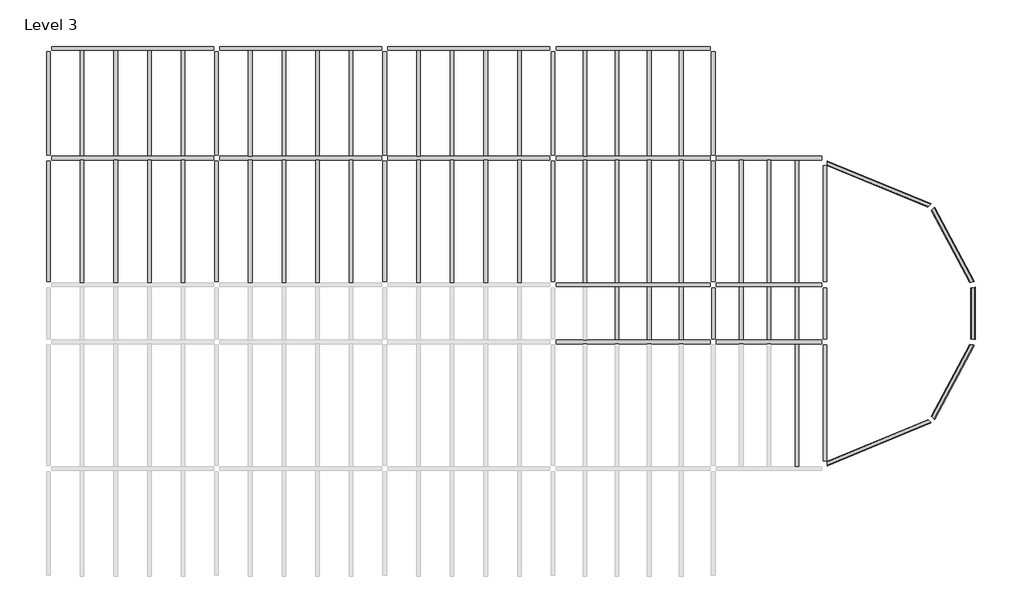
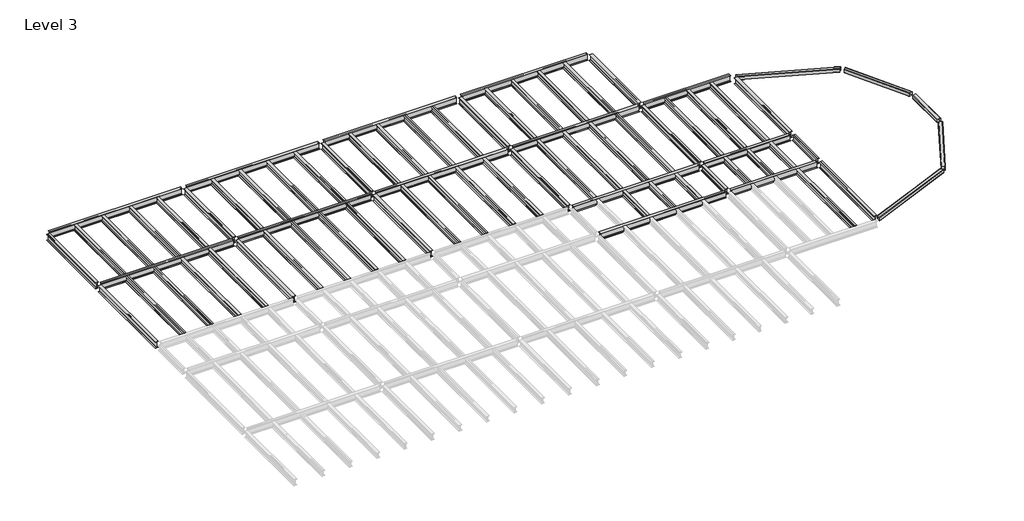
# One storey, part 2 of 2: 74 beams.
"""IFC4 building model written with IfcOpenShell, lengths in millimetres."""

from ifc_helpers import new_model, si_unit, origin, place, context, project, spatial, transform, mapped, element, save
from components import hss_square_hss8x8x3_8_81874951, hss_square_hss8x8x3_8_df46a162, hss_square_hss8x8x3_8_1cc8d9bf, hss_square_hss8x8x3_8_2c6f5ad9, w_shapes_w12x26_ac08b433, w_shapes_w12x26_80971791, w_shapes_w12x26_13ab2ca8, w_shapes_w12x26_1a00c8bd, w_shapes_w14x30_2b5df836, w_shapes_w14x30_7cdcd298, w_shapes_w14x30_aa676985, w_shapes_w14x30_0fa609c7, w_shapes_w14x30_8a2fed69, w_shapes_w14x30_0dffa004, w_shapes_w14x30_1dc52f8a

model = new_model("IFC4")

# Units and contexts
model_context = context("Model", 3, world=origin())
ifc_project = project(units=[si_unit("LENGTHUNIT", "METRE", prefix="MILLI")], contexts=[model_context])

# Site, building, storey
site = spatial("IfcSite", under=ifc_project)
building = spatial("IfcBuilding", under=site)
storey = spatial("IfcBuildingStorey", under=building, Name="Level 3", Elevation=7162.8)

# Beams
placement = place(None, origin())
hss_square_hss8x8x3_8_shape = hss_square_hss8x8x3_8_81874951(model_context)
element("IfcBeam", 1, ObjectType="HSS Square : HSS8X8X3/8", at=placement, inside=storey, context=model_context, shape_type="MappedRepresentation", body=[
    mapped(hss_square_hss8x8x3_8_shape, transform((17937.9339721, 4304.5648319, 7061.2), x_axis=(1.0, 0.0, 0.0), y_axis=(0.0, 1.0, 0.0), z_axis=(0.0, 0.0, 1.0))),
])
element("IfcBeam", 2, ObjectType="HSS Square : HSS8X8X3/8", at=placement, inside=storey, context=model_context, shape_type="MappedRepresentation", body=[
    mapped(hss_square_hss8x8x3_8_shape, transform((22753.596317, -7321.472513, 7061.2), x_axis=(-0.7071067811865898, -0.7071067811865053, 0.0), y_axis=(0.7071067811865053, -0.7071067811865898, 0.0), z_axis=(0.0, 0.0, 1.0))),
])
hss_square_hss8x8x3_8_2_shape = hss_square_hss8x8x3_8_df46a162(model_context)
element("IfcBeam", 3, ObjectType="HSS Square : HSS8X8X3/8", at=placement, inside=storey, context=model_context, shape_type="MappedRepresentation", body=[
    mapped(hss_square_hss8x8x3_8_2_shape, transform((22753.596317, 2309.8521769, 7061.2), x_axis=(0.7071067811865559, -0.7071067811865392, 0.0), y_axis=(0.7071067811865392, 0.7071067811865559, 0.0), z_axis=(0.0, 0.0, 1.0))),
])
hss_square_hss8x8x3_8_3_shape = hss_square_hss8x8x3_8_1cc8d9bf(model_context)
element("IfcBeam", 4, ObjectType="HSS Square : HSS8X8X3/8", at=placement, inside=storey, context=model_context, shape_type="MappedRepresentation", body=[
    mapped(hss_square_hss8x8x3_8_3_shape, transform((24623.6673698, -1208.8226681, 7061.2), x_axis=(0.19044289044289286, -0.9816982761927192, 0.0), y_axis=(0.9816982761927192, 0.19044289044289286, 0.0), z_axis=(0.0, 0.0, 1.0))),
])
hss_square_hss8x8x3_8_4_shape = hss_square_hss8x8x3_8_2c6f5ad9(model_context)
element("IfcBeam", 5, ObjectType="HSS Square : HSS8X8X3/8", at=placement, inside=storey, context=model_context, shape_type="MappedRepresentation", body=[
    mapped(hss_square_hss8x8x3_8_4_shape, transform((24623.6673698, -3802.7976681, 7061.2), x_axis=(-0.19044289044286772, -0.981698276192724, 0.0), y_axis=(0.981698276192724, -0.19044289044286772, 0.0), z_axis=(0.0, 0.0, 1.0))),
])
w_shapes_w12x26_shape = w_shapes_w12x26_ac08b433(model_context)
element("IfcBeam", 6, ObjectType="W Shapes : W12X26", at=placement, inside=storey, context=model_context, shape_type="MappedRepresentation", body=[
    mapped(w_shapes_w12x26_shape, transform((12884.9214721, -2505.8101681, 7007.86), x_axis=(0.0, -1.0, 0.0), y_axis=(1.0, 0.0, 0.0), z_axis=(0.0, 0.0, 1.0))),
])
element("IfcBeam", 7, ObjectType="W Shapes : W12X26", at=placement, inside=storey, context=model_context, shape_type="MappedRepresentation", body=[
    mapped(w_shapes_w12x26_shape, transform((17937.9339721, -2505.8101681, 7007.86), x_axis=(0.0, -1.0, 0.0), y_axis=(1.0, 0.0, 0.0), z_axis=(0.0, 0.0, 1.0))),
])
w_shapes_w12x26_2_shape = w_shapes_w12x26_80971791(model_context)
element("IfcBeam", 8, ObjectType="W Shapes : W12X26", at=placement, inside=storey, context=model_context, shape_type="MappedRepresentation", body=[
    mapped(w_shapes_w12x26_2_shape, transform((-15718.6535279, 7022.3648319, 7007.86), x_axis=(0.0, 1.0, 0.0), y_axis=(-1.0, 0.0, 0.0), z_axis=(0.0, 0.0, 1.0))),
])
element("IfcBeam", 9, ObjectType="W Shapes : W12X26", at=placement, inside=storey, context=model_context, shape_type="MappedRepresentation", body=[
    mapped(w_shapes_w12x26_2_shape, transform((-14194.6535279, 7022.3648319, 7007.86), x_axis=(0.0, 1.0, 0.0), y_axis=(-1.0, 0.0, 0.0), z_axis=(0.0, 0.0, 1.0))),
])
element("IfcBeam", 10, ObjectType="W Shapes : W12X26", at=placement, inside=storey, context=model_context, shape_type="MappedRepresentation", body=[
    mapped(w_shapes_w12x26_2_shape, transform((-12670.6535279, 7022.3648319, 7007.86), x_axis=(0.0, 1.0, 0.0), y_axis=(-1.0, 0.0, 0.0), z_axis=(0.0, 0.0, 1.0))),
])
element("IfcBeam", 11, ObjectType="W Shapes : W12X26", at=placement, inside=storey, context=model_context, shape_type="MappedRepresentation", body=[
    mapped(w_shapes_w12x26_2_shape, transform((-11146.6535279, 7022.3648319, 7007.86), x_axis=(0.0, 1.0, 0.0), y_axis=(-1.0, 0.0, 0.0), z_axis=(0.0, 0.0, 1.0))),
])
element("IfcBeam", 12, ObjectType="W Shapes : W12X26", at=placement, inside=storey, context=model_context, shape_type="MappedRepresentation", body=[
    mapped(w_shapes_w12x26_2_shape, transform((-3526.6535279, 7022.3648319, 7007.86), x_axis=(0.0, -1.0, 0.0), y_axis=(1.0, 0.0, 0.0), z_axis=(0.0, 0.0, 1.0))),
])
element("IfcBeam", 13, ObjectType="W Shapes : W12X26", at=placement, inside=storey, context=model_context, shape_type="MappedRepresentation", body=[
    mapped(w_shapes_w12x26_2_shape, transform((-5050.6535279, 7022.3648319, 7007.86), x_axis=(0.0, -1.0, 0.0), y_axis=(1.0, 0.0, 0.0), z_axis=(0.0, 0.0, 1.0))),
])
element("IfcBeam", 14, ObjectType="W Shapes : W12X26", at=placement, inside=storey, context=model_context, shape_type="MappedRepresentation", body=[
    mapped(w_shapes_w12x26_2_shape, transform((-6574.6535279, 7022.3648319, 7007.86), x_axis=(0.0, -1.0, 0.0), y_axis=(1.0, 0.0, 0.0), z_axis=(0.0, 0.0, 1.0))),
])
element("IfcBeam", 15, ObjectType="W Shapes : W12X26", at=placement, inside=storey, context=model_context, shape_type="MappedRepresentation", body=[
    mapped(w_shapes_w12x26_2_shape, transform((-8098.6535279, 7022.3648319, 7007.86), x_axis=(0.0, -1.0, 0.0), y_axis=(1.0, 0.0, 0.0), z_axis=(0.0, 0.0, 1.0))),
])
element("IfcBeam", 16, ObjectType="W Shapes : W12X26", at=placement, inside=storey, context=model_context, shape_type="MappedRepresentation", body=[
    mapped(w_shapes_w12x26_2_shape, transform((4093.3464721, 7022.3648319, 7007.86), x_axis=(0.0, -1.0, 0.0), y_axis=(1.0, 0.0, 0.0), z_axis=(0.0, 0.0, 1.0))),
])
element("IfcBeam", 17, ObjectType="W Shapes : W12X26", at=placement, inside=storey, context=model_context, shape_type="MappedRepresentation", body=[
    mapped(w_shapes_w12x26_2_shape, transform((2569.3464721, 7022.3648319, 7007.86), x_axis=(0.0, -1.0, 0.0), y_axis=(1.0, 0.0, 0.0), z_axis=(0.0, 0.0, 1.0))),
])
element("IfcBeam", 18, ObjectType="W Shapes : W12X26", at=placement, inside=storey, context=model_context, shape_type="MappedRepresentation", body=[
    mapped(w_shapes_w12x26_2_shape, transform((1045.3464721, 7022.3648319, 7007.86), x_axis=(0.0, -1.0, 0.0), y_axis=(1.0, 0.0, 0.0), z_axis=(0.0, 0.0, 1.0))),
])
element("IfcBeam", 19, ObjectType="W Shapes : W12X26", at=placement, inside=storey, context=model_context, shape_type="MappedRepresentation", body=[
    mapped(w_shapes_w12x26_2_shape, transform((-478.6535279, 7022.3648319, 7007.86), x_axis=(0.0, -1.0, 0.0), y_axis=(1.0, 0.0, 0.0), z_axis=(0.0, 0.0, 1.0))),
])
element("IfcBeam", 20, ObjectType="W Shapes : W12X26", at=placement, inside=storey, context=model_context, shape_type="MappedRepresentation", body=[
    mapped(w_shapes_w12x26_2_shape, transform((11431.4064721, 7022.3648319, 7007.86), x_axis=(0.0, -1.0, 0.0), y_axis=(1.0, 0.0, 0.0), z_axis=(0.0, 0.0, 1.0))),
])
element("IfcBeam", 21, ObjectType="W Shapes : W12X26", at=placement, inside=storey, context=model_context, shape_type="MappedRepresentation", body=[
    mapped(w_shapes_w12x26_2_shape, transform((9977.8914721, 7022.3648319, 7007.86), x_axis=(0.0, -1.0, 0.0), y_axis=(1.0, 0.0, 0.0), z_axis=(0.0, 0.0, 1.0))),
])
element("IfcBeam", 22, ObjectType="W Shapes : W12X26", at=placement, inside=storey, context=model_context, shape_type="MappedRepresentation", body=[
    mapped(w_shapes_w12x26_2_shape, transform((8524.3764721, 7022.3648319, 7007.86), x_axis=(0.0, -1.0, 0.0), y_axis=(1.0, 0.0, 0.0), z_axis=(0.0, 0.0, 1.0))),
])
element("IfcBeam", 23, ObjectType="W Shapes : W12X26", at=placement, inside=storey, context=model_context, shape_type="MappedRepresentation", body=[
    mapped(w_shapes_w12x26_2_shape, transform((7070.8614721, 7022.3648319, 7007.86), x_axis=(0.0, -1.0, 0.0), y_axis=(1.0, 0.0, 0.0), z_axis=(0.0, 0.0, 1.0))),
])
w_shapes_w12x26_3_shape = w_shapes_w12x26_13ab2ca8(model_context)
element("IfcBeam", 24, ObjectType="W Shapes : W12X26", at=placement, inside=storey, context=model_context, shape_type="MappedRepresentation", body=[
    mapped(w_shapes_w12x26_3_shape, transform((11431.4064721, 1662.9648319, 7007.86), x_axis=(0.0, -1.0, 0.0), y_axis=(1.0, 0.0, 0.0), z_axis=(0.0, 0.0, 1.0))),
])
element("IfcBeam", 25, ObjectType="W Shapes : W12X26", at=placement, inside=storey, context=model_context, shape_type="MappedRepresentation", body=[
    mapped(w_shapes_w12x26_3_shape, transform((9977.8914721, 1662.9648319, 7007.86), x_axis=(0.0, -1.0, 0.0), y_axis=(1.0, 0.0, 0.0), z_axis=(0.0, 0.0, 1.0))),
])
element("IfcBeam", 26, ObjectType="W Shapes : W12X26", at=placement, inside=storey, context=model_context, shape_type="MappedRepresentation", body=[
    mapped(w_shapes_w12x26_3_shape, transform((8524.3764721, 1662.9648319, 7007.86), x_axis=(0.0, -1.0, 0.0), y_axis=(1.0, 0.0, 0.0), z_axis=(0.0, 0.0, 1.0))),
])
element("IfcBeam", 27, ObjectType="W Shapes : W12X26", at=placement, inside=storey, context=model_context, shape_type="MappedRepresentation", body=[
    mapped(w_shapes_w12x26_3_shape, transform((7070.8614721, 1662.9648319, 7007.86), x_axis=(0.0, -1.0, 0.0), y_axis=(1.0, 0.0, 0.0), z_axis=(0.0, 0.0, 1.0))),
])
element("IfcBeam", 28, ObjectType="W Shapes : W12X26", at=placement, inside=storey, context=model_context, shape_type="MappedRepresentation", body=[
    mapped(w_shapes_w12x26_3_shape, transform((4093.3464721, 1662.9648319, 7007.86), x_axis=(0.0, -1.0, 0.0), y_axis=(1.0, 0.0, 0.0), z_axis=(0.0, 0.0, 1.0))),
])
element("IfcBeam", 29, ObjectType="W Shapes : W12X26", at=placement, inside=storey, context=model_context, shape_type="MappedRepresentation", body=[
    mapped(w_shapes_w12x26_3_shape, transform((2569.3464721, 1662.9648319, 7007.86), x_axis=(0.0, -1.0, 0.0), y_axis=(1.0, 0.0, 0.0), z_axis=(0.0, 0.0, 1.0))),
])
element("IfcBeam", 30, ObjectType="W Shapes : W12X26", at=placement, inside=storey, context=model_context, shape_type="MappedRepresentation", body=[
    mapped(w_shapes_w12x26_3_shape, transform((1045.3464721, 1662.9648319, 7007.86), x_axis=(0.0, -1.0, 0.0), y_axis=(1.0, 0.0, 0.0), z_axis=(0.0, 0.0, 1.0))),
])
element("IfcBeam", 31, ObjectType="W Shapes : W12X26", at=placement, inside=storey, context=model_context, shape_type="MappedRepresentation", body=[
    mapped(w_shapes_w12x26_3_shape, transform((-478.6535279, 1662.9648319, 7007.86), x_axis=(0.0, -1.0, 0.0), y_axis=(1.0, 0.0, 0.0), z_axis=(0.0, 0.0, 1.0))),
])
element("IfcBeam", 32, ObjectType="W Shapes : W12X26", at=placement, inside=storey, context=model_context, shape_type="MappedRepresentation", body=[
    mapped(w_shapes_w12x26_3_shape, transform((-3526.6535279, 1662.9648319, 7007.86), x_axis=(0.0, -1.0, 0.0), y_axis=(1.0, 0.0, 0.0), z_axis=(0.0, 0.0, 1.0))),
])
element("IfcBeam", 33, ObjectType="W Shapes : W12X26", at=placement, inside=storey, context=model_context, shape_type="MappedRepresentation", body=[
    mapped(w_shapes_w12x26_3_shape, transform((-5050.6535279, 1662.9648319, 7007.86), x_axis=(0.0, -1.0, 0.0), y_axis=(1.0, 0.0, 0.0), z_axis=(0.0, 0.0, 1.0))),
])
element("IfcBeam", 34, ObjectType="W Shapes : W12X26", at=placement, inside=storey, context=model_context, shape_type="MappedRepresentation", body=[
    mapped(w_shapes_w12x26_3_shape, transform((-6574.6535279, 1662.9648319, 7007.86), x_axis=(0.0, -1.0, 0.0), y_axis=(1.0, 0.0, 0.0), z_axis=(0.0, 0.0, 1.0))),
])
element("IfcBeam", 35, ObjectType="W Shapes : W12X26", at=placement, inside=storey, context=model_context, shape_type="MappedRepresentation", body=[
    mapped(w_shapes_w12x26_3_shape, transform((-8098.6535279, 1662.9648319, 7007.86), x_axis=(0.0, -1.0, 0.0), y_axis=(1.0, 0.0, 0.0), z_axis=(0.0, 0.0, 1.0))),
])
element("IfcBeam", 36, ObjectType="W Shapes : W12X26", at=placement, inside=storey, context=model_context, shape_type="MappedRepresentation", body=[
    mapped(w_shapes_w12x26_3_shape, transform((-15718.6535279, 1662.9648319, 7007.86), x_axis=(0.0, 1.0, 0.0), y_axis=(-1.0, 0.0, 0.0), z_axis=(0.0, 0.0, 1.0))),
])
element("IfcBeam", 37, ObjectType="W Shapes : W12X26", at=placement, inside=storey, context=model_context, shape_type="MappedRepresentation", body=[
    mapped(w_shapes_w12x26_3_shape, transform((-14194.6535279, 1662.9648319, 7007.86), x_axis=(0.0, 1.0, 0.0), y_axis=(-1.0, 0.0, 0.0), z_axis=(0.0, 0.0, 1.0))),
])
element("IfcBeam", 38, ObjectType="W Shapes : W12X26", at=placement, inside=storey, context=model_context, shape_type="MappedRepresentation", body=[
    mapped(w_shapes_w12x26_3_shape, transform((-12670.6535279, 1662.9648319, 7007.86), x_axis=(0.0, 1.0, 0.0), y_axis=(-1.0, 0.0, 0.0), z_axis=(0.0, 0.0, 1.0))),
])
element("IfcBeam", 39, ObjectType="W Shapes : W12X26", at=placement, inside=storey, context=model_context, shape_type="MappedRepresentation", body=[
    mapped(w_shapes_w12x26_3_shape, transform((-11146.6535279, 1662.9648319, 7007.86), x_axis=(0.0, 1.0, 0.0), y_axis=(-1.0, 0.0, 0.0), z_axis=(0.0, 0.0, 1.0))),
])
element("IfcBeam", 40, ObjectType="W Shapes : W12X26", at=placement, inside=storey, context=model_context, shape_type="MappedRepresentation", body=[
    mapped(w_shapes_w12x26_3_shape, transform((16674.6808471, 1662.9648319, 7007.86), x_axis=(0.0, -1.0, 0.0), y_axis=(1.0, 0.0, 0.0), z_axis=(0.0, 0.0, 1.0))),
])
element("IfcBeam", 41, ObjectType="W Shapes : W12X26", at=placement, inside=storey, context=model_context, shape_type="MappedRepresentation", body=[
    mapped(w_shapes_w12x26_3_shape, transform((15411.4277221, 1662.9648319, 7007.86), x_axis=(0.0, -1.0, 0.0), y_axis=(1.0, 0.0, 0.0), z_axis=(0.0, 0.0, 1.0))),
])
element("IfcBeam", 42, ObjectType="W Shapes : W12X26", at=placement, inside=storey, context=model_context, shape_type="MappedRepresentation", body=[
    mapped(w_shapes_w12x26_3_shape, transform((14148.1745971, 1662.9648319, 7007.86), x_axis=(0.0, -1.0, 0.0), y_axis=(1.0, 0.0, 0.0), z_axis=(0.0, 0.0, 1.0))),
])
element("IfcBeam", 43, ObjectType="W Shapes : W12X26", at=placement, inside=storey, context=model_context, shape_type="MappedRepresentation", body=[
    mapped(w_shapes_w12x26_3_shape, transform((16674.6808471, -6674.5851681, 7007.86), x_axis=(0.0, 1.0, 0.0), y_axis=(-1.0, 0.0, 0.0), z_axis=(0.0, 0.0, 1.0))),
])
w_shapes_w12x26_4_shape = w_shapes_w12x26_1a00c8bd(model_context)
element("IfcBeam", 44, ObjectType="W Shapes : W12X26", at=placement, inside=storey, context=model_context, shape_type="MappedRepresentation", body=[
    mapped(w_shapes_w12x26_4_shape, transform((11431.4064721, -2505.8101681, 7007.86), x_axis=(0.0, -1.0, 0.0), y_axis=(1.0, 0.0, 0.0), z_axis=(0.0, 0.0, 1.0))),
])
element("IfcBeam", 45, ObjectType="W Shapes : W12X26", at=placement, inside=storey, context=model_context, shape_type="MappedRepresentation", body=[
    mapped(w_shapes_w12x26_4_shape, transform((9977.8914721, -2505.8101681, 7007.86), x_axis=(0.0, -1.0, 0.0), y_axis=(1.0, 0.0, 0.0), z_axis=(0.0, 0.0, 1.0))),
])
element("IfcBeam", 46, ObjectType="W Shapes : W12X26", at=placement, inside=storey, context=model_context, shape_type="MappedRepresentation", body=[
    mapped(w_shapes_w12x26_4_shape, transform((8524.3764721, -2505.8101681, 7007.86), x_axis=(0.0, -1.0, 0.0), y_axis=(1.0, 0.0, 0.0), z_axis=(0.0, 0.0, 1.0))),
])
element("IfcBeam", 47, ObjectType="W Shapes : W12X26", at=placement, inside=storey, context=model_context, shape_type="MappedRepresentation", body=[
    mapped(w_shapes_w12x26_4_shape, transform((16674.6808471, -2505.8101681, 7007.86), x_axis=(0.0, -1.0, 0.0), y_axis=(1.0, 0.0, 0.0), z_axis=(0.0, 0.0, 1.0))),
])
element("IfcBeam", 48, ObjectType="W Shapes : W12X26", at=placement, inside=storey, context=model_context, shape_type="MappedRepresentation", body=[
    mapped(w_shapes_w12x26_4_shape, transform((15411.4277221, -2505.8101681, 7007.86), x_axis=(0.0, -1.0, 0.0), y_axis=(1.0, 0.0, 0.0), z_axis=(0.0, 0.0, 1.0))),
])
element("IfcBeam", 49, ObjectType="W Shapes : W12X26", at=placement, inside=storey, context=model_context, shape_type="MappedRepresentation", body=[
    mapped(w_shapes_w12x26_4_shape, transform((14148.1745971, -2505.8101681, 7007.86), x_axis=(0.0, -1.0, 0.0), y_axis=(1.0, 0.0, 0.0), z_axis=(0.0, 0.0, 1.0))),
])
w_shapes_w14x30_shape = w_shapes_w14x30_2b5df836(model_context)
element("IfcBeam", 50, ObjectType="W Shapes : W14X30", at=placement, inside=storey, context=model_context, shape_type="MappedRepresentation", body=[
    mapped(w_shapes_w14x30_shape, transform((-13432.6535279, 9509.9773319, 6987.54), x_axis=(1.0, 0.0, 0.0), y_axis=(0.0, 1.0, 0.0), z_axis=(0.0, 0.0, 1.0))),
])
element("IfcBeam", 51, ObjectType="W Shapes : W14X30", at=placement, inside=storey, context=model_context, shape_type="MappedRepresentation", body=[
    mapped(w_shapes_w14x30_shape, transform((-5812.6535279, 9509.9773319, 6987.54), x_axis=(1.0, 0.0, 0.0), y_axis=(0.0, 1.0, 0.0), z_axis=(0.0, 0.0, 1.0))),
])
element("IfcBeam", 52, ObjectType="W Shapes : W14X30", at=placement, inside=storey, context=model_context, shape_type="MappedRepresentation", body=[
    mapped(w_shapes_w14x30_shape, transform((1807.3464721, 9509.9773319, 6987.54), x_axis=(1.0, 0.0, 0.0), y_axis=(0.0, 1.0, 0.0), z_axis=(0.0, 0.0, 1.0))),
])
element("IfcBeam", 53, ObjectType="W Shapes : W14X30", at=placement, inside=storey, context=model_context, shape_type="MappedRepresentation", body=[
    mapped(w_shapes_w14x30_shape, transform((1807.3464721, 4534.7523319, 6987.54), x_axis=(-1.0, 0.0, 0.0), y_axis=(0.0, -1.0, 0.0), z_axis=(0.0, 0.0, 1.0))),
])
element("IfcBeam", 54, ObjectType="W Shapes : W14X30", at=placement, inside=storey, context=model_context, shape_type="MappedRepresentation", body=[
    mapped(w_shapes_w14x30_shape, transform((-5812.6535279, 4534.7523319, 6987.54), x_axis=(-1.0, 0.0, 0.0), y_axis=(0.0, -1.0, 0.0), z_axis=(0.0, 0.0, 1.0))),
])
element("IfcBeam", 55, ObjectType="W Shapes : W14X30", at=placement, inside=storey, context=model_context, shape_type="MappedRepresentation", body=[
    mapped(w_shapes_w14x30_shape, transform((-13432.6535279, 4534.7523319, 6987.54), x_axis=(-1.0, 0.0, 0.0), y_axis=(0.0, -1.0, 0.0), z_axis=(0.0, 0.0, 1.0))),
])
w_shapes_w14x30_2_shape = w_shapes_w14x30_7cdcd298(model_context)
element("IfcBeam", 56, ObjectType="W Shapes : W14X30", at=placement, inside=storey, context=model_context, shape_type="MappedRepresentation", body=[
    mapped(w_shapes_w14x30_2_shape, transform((9251.1339721, 9509.9773319, 6987.54), x_axis=(1.0, 0.0, 0.0), y_axis=(0.0, 1.0, 0.0), z_axis=(0.0, 0.0, 1.0))),
])
element("IfcBeam", 57, ObjectType="W Shapes : W14X30", at=placement, inside=storey, context=model_context, shape_type="MappedRepresentation", body=[
    mapped(w_shapes_w14x30_2_shape, transform((9251.1339721, -1208.8226681, 6987.54), x_axis=(-1.0, 0.0, 0.0), y_axis=(0.0, -1.0, 0.0), z_axis=(0.0, 0.0, 1.0))),
])
element("IfcBeam", 58, ObjectType="W Shapes : W14X30", at=placement, inside=storey, context=model_context, shape_type="MappedRepresentation", body=[
    mapped(w_shapes_w14x30_2_shape, transform((9251.1339721, 4534.7523319, 6987.54), x_axis=(-1.0, 0.0, 0.0), y_axis=(0.0, -1.0, 0.0), z_axis=(0.0, 0.0, 1.0))),
])
element("IfcBeam", 59, ObjectType="W Shapes : W14X30", at=placement, inside=storey, context=model_context, shape_type="MappedRepresentation", body=[
    mapped(w_shapes_w14x30_2_shape, transform((9251.1339721, -3802.7976681, 6987.54), x_axis=(1.0, 0.0, 0.0), y_axis=(0.0, 1.0, 0.0), z_axis=(0.0, 0.0, 1.0))),
])
w_shapes_w14x30_3_shape = w_shapes_w14x30_aa676985(model_context)
element("IfcBeam", 60, ObjectType="W Shapes : W14X30", at=placement, inside=storey, context=model_context, shape_type="MappedRepresentation", body=[
    mapped(w_shapes_w14x30_3_shape, transform((12884.9214721, 7022.3648319, 6987.54), x_axis=(0.0, -1.0, 0.0), y_axis=(1.0, 0.0, 0.0), z_axis=(0.0, 0.0, 1.0))),
])
element("IfcBeam", 61, ObjectType="W Shapes : W14X30", at=placement, inside=storey, context=model_context, shape_type="MappedRepresentation", body=[
    mapped(w_shapes_w14x30_3_shape, transform((-17242.6535279, 7022.3648319, 6987.54), x_axis=(0.0, 1.0, 0.0), y_axis=(-1.0, 0.0, 0.0), z_axis=(0.0, 0.0, 1.0))),
])
element("IfcBeam", 62, ObjectType="W Shapes : W14X30", at=placement, inside=storey, context=model_context, shape_type="MappedRepresentation", body=[
    mapped(w_shapes_w14x30_3_shape, transform((-9622.6535279, 7022.3648319, 6987.54), x_axis=(0.0, -1.0, 0.0), y_axis=(1.0, 0.0, 0.0), z_axis=(0.0, 0.0, 1.0))),
])
element("IfcBeam", 63, ObjectType="W Shapes : W14X30", at=placement, inside=storey, context=model_context, shape_type="MappedRepresentation", body=[
    mapped(w_shapes_w14x30_3_shape, transform((-2002.6535279, 7022.3648319, 6987.54), x_axis=(0.0, -1.0, 0.0), y_axis=(1.0, 0.0, 0.0), z_axis=(0.0, 0.0, 1.0))),
])
element("IfcBeam", 64, ObjectType="W Shapes : W14X30", at=placement, inside=storey, context=model_context, shape_type="MappedRepresentation", body=[
    mapped(w_shapes_w14x30_3_shape, transform((5617.3464721, 7022.3648319, 6987.54), x_axis=(0.0, -1.0, 0.0), y_axis=(1.0, 0.0, 0.0), z_axis=(0.0, 0.0, 1.0))),
])
w_shapes_w14x30_4_shape = w_shapes_w14x30_0fa609c7(model_context)
element("IfcBeam", 65, ObjectType="W Shapes : W14X30", at=placement, inside=storey, context=model_context, shape_type="MappedRepresentation", body=[
    mapped(w_shapes_w14x30_4_shape, transform((15411.4277221, 4534.7523319, 6987.54), x_axis=(1.0, 0.0, 0.0), y_axis=(0.0, 1.0, 0.0), z_axis=(0.0, 0.0, 1.0))),
])
element("IfcBeam", 66, ObjectType="W Shapes : W14X30", at=placement, inside=storey, context=model_context, shape_type="MappedRepresentation", body=[
    mapped(w_shapes_w14x30_4_shape, transform((15411.4277221, -1208.8226681, 6987.54), x_axis=(-1.0, 0.0, 0.0), y_axis=(0.0, -1.0, 0.0), z_axis=(0.0, 0.0, 1.0))),
])
element("IfcBeam", 67, ObjectType="W Shapes : W14X30", at=placement, inside=storey, context=model_context, shape_type="MappedRepresentation", body=[
    mapped(w_shapes_w14x30_4_shape, transform((15411.4277221, -3802.7976681, 6987.54), x_axis=(1.0, 0.0, 0.0), y_axis=(0.0, 1.0, 0.0), z_axis=(0.0, 0.0, 1.0))),
])
w_shapes_w14x30_5_shape = w_shapes_w14x30_8a2fed69(model_context)
element("IfcBeam", 68, ObjectType="W Shapes : W14X30", at=placement, inside=storey, context=model_context, shape_type="MappedRepresentation", body=[
    mapped(w_shapes_w14x30_5_shape, transform((17937.9339721, 1547.8710819, 6987.54), x_axis=(0.0, -1.0, 0.0), y_axis=(1.0, 0.0, 0.0), z_axis=(0.0, 0.0, 1.0))),
])
w_shapes_w14x30_6_shape = w_shapes_w14x30_0dffa004(model_context)
element("IfcBeam", 69, ObjectType="W Shapes : W14X30", at=placement, inside=storey, context=model_context, shape_type="MappedRepresentation", body=[
    mapped(w_shapes_w14x30_6_shape, transform((-17242.6535279, 1662.9648319, 6987.54), x_axis=(0.0, 1.0, 0.0), y_axis=(-1.0, 0.0, 0.0), z_axis=(0.0, 0.0, 1.0))),
])
element("IfcBeam", 70, ObjectType="W Shapes : W14X30", at=placement, inside=storey, context=model_context, shape_type="MappedRepresentation", body=[
    mapped(w_shapes_w14x30_6_shape, transform((-9622.6535279, 1662.9648319, 6987.54), x_axis=(0.0, -1.0, 0.0), y_axis=(1.0, 0.0, 0.0), z_axis=(0.0, 0.0, 1.0))),
])
element("IfcBeam", 71, ObjectType="W Shapes : W14X30", at=placement, inside=storey, context=model_context, shape_type="MappedRepresentation", body=[
    mapped(w_shapes_w14x30_6_shape, transform((-2002.6535279, 1662.9648319, 6987.54), x_axis=(0.0, -1.0, 0.0), y_axis=(1.0, 0.0, 0.0), z_axis=(0.0, 0.0, 1.0))),
])
element("IfcBeam", 72, ObjectType="W Shapes : W14X30", at=placement, inside=storey, context=model_context, shape_type="MappedRepresentation", body=[
    mapped(w_shapes_w14x30_6_shape, transform((5617.3464721, 1662.9648319, 6987.54), x_axis=(0.0, -1.0, 0.0), y_axis=(1.0, 0.0, 0.0), z_axis=(0.0, 0.0, 1.0))),
])
element("IfcBeam", 73, ObjectType="W Shapes : W14X30", at=placement, inside=storey, context=model_context, shape_type="MappedRepresentation", body=[
    mapped(w_shapes_w14x30_6_shape, transform((12884.9214721, 1662.9648319, 6987.54), x_axis=(0.0, -1.0, 0.0), y_axis=(1.0, 0.0, 0.0), z_axis=(0.0, 0.0, 1.0))),
])
w_shapes_w14x30_7_shape = w_shapes_w14x30_1dc52f8a(model_context)
element("IfcBeam", 74, ObjectType="W Shapes : W14X30", at=placement, inside=storey, context=model_context, shape_type="MappedRepresentation", body=[
    mapped(w_shapes_w14x30_7_shape, transform((17937.9339721, -6559.4914181, 6987.54), x_axis=(0.0, -1.0, 0.0), y_axis=(1.0, 0.0, 0.0), z_axis=(0.0, 0.0, 1.0))),
])

save(model, "model.ifc")
